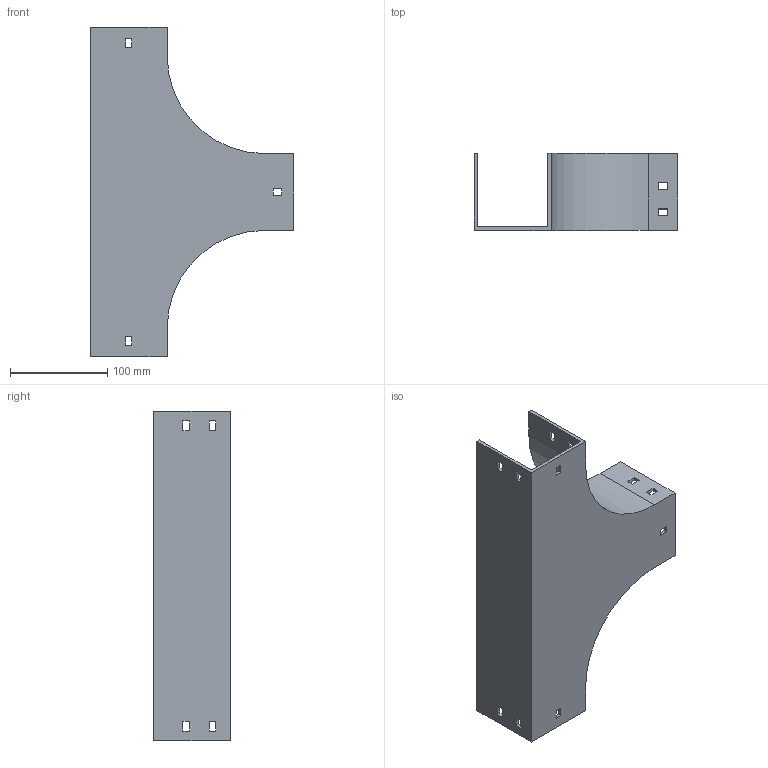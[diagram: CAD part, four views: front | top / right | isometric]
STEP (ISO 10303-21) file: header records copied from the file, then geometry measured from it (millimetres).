
FILE_DESCRIPTION (( 'STEP AP214' ), '1' );
FILE_NAME ('15F1C075.step', '2025-02-21T13:04:33', ( '' ), ( '' ), 'SwSTEP 2.0', 'SolidWorks 2023', '' );
FILE_SCHEMA (( 'AUTOMOTIVE_DESIGN' ));
Length unit declared in the file: millimetre
Products named in the file (1): 15F1C075
Bounding box: 209 x 79 x 339 mm (x, y, z)
Volume: 346906.5 mm3; surface area: 205106.8 mm2
Topology: 1 solids, 1 shells, 82 faces, 240 edges, 160 vertices
Faces by surface type: plane 78, cylinder 4
Entity records: 2755 total; most frequent: CARTESIAN_POINT 483, ORIENTED_EDGE 480, DIRECTION 414, EDGE_CURVE 240, LINE 232, VECTOR 232, VERTEX_POINT 160, EDGE_LOOP 112
